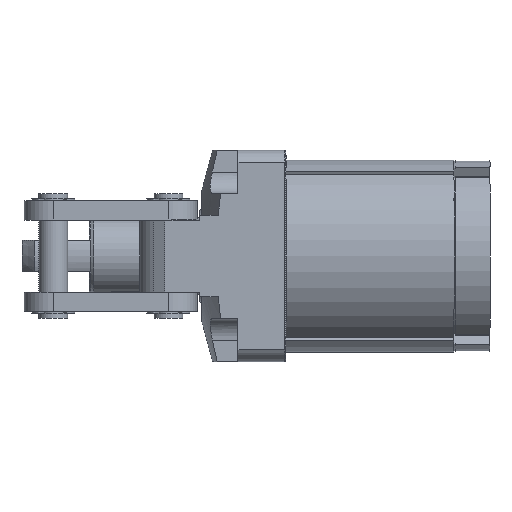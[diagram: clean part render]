
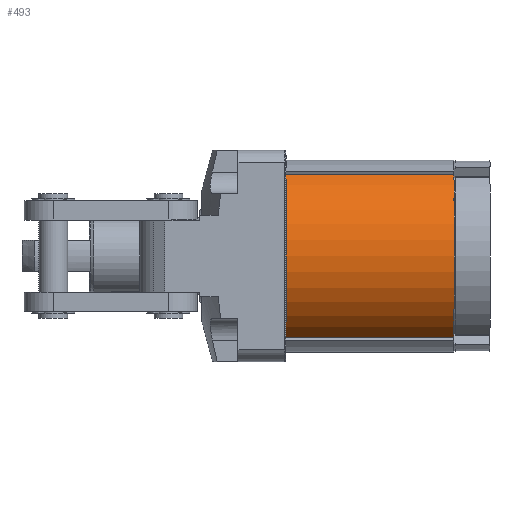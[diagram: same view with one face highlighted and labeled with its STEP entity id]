
A CAD part, left-side view. The second image highlights one B-rep face of the part: STEP entity #493.
In plain terms, the highlighted cylindrical face has radius 40 mm (diameter 80 mm), a partial arc.
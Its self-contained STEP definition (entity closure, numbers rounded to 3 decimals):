
#493 = ADVANCED_FACE( '', ( #1005 ), #1006, .T. );
#1005 = FACE_OUTER_BOUND( '', #1834, .T. );
#1006 = CYLINDRICAL_SURFACE( '', #1835, 40. );
#1834 = EDGE_LOOP( '', ( #3382, #3383, #3384, #3385 ) );
#1835 = AXIS2_PLACEMENT_3D( '', #3386, #3387, #3388 );
#3382 = ORIENTED_EDGE( '', *, *, #5725, .F. );
#3383 = ORIENTED_EDGE( '', *, *, #5703, .F. );
#3384 = ORIENTED_EDGE( '', *, *, #5726, .T. );
#3385 = ORIENTED_EDGE( '', *, *, #5585, .T. );
#3386 = CARTESIAN_POINT( '', ( 0., -70., 0. ) );
#3387 = DIRECTION( '', ( 0., -1., 0. ) );
#3388 = DIRECTION( '', ( 1., 0., 0. ) );
#5585 = EDGE_CURVE( '', #6695, #6693, #6696, .T. );
#5703 = EDGE_CURVE( '', #6901, #6903, #6904, .T. );
#5725 = EDGE_CURVE( '', #6903, #6693, #6942, .T. );
#5726 = EDGE_CURVE( '', #6901, #6695, #6943, .T. );
#6693 = VERTEX_POINT( '', #8866 );
#6695 = VERTEX_POINT( '', #8869 );
#6696 = CIRCLE( '', #8870, 40. );
#6901 = VERTEX_POINT( '', #9151 );
#6903 = VERTEX_POINT( '', #9154 );
#6904 = CIRCLE( '', #9155, 40. );
#6942 = LINE( '', #9209, #9210 );
#6943 = LINE( '', #9211, #9212 );
#8866 = CARTESIAN_POINT( '', ( -21.37, 0., -33.813 ) );
#8869 = CARTESIAN_POINT( '', ( -21.37, 0., 33.813 ) );
#8870 = AXIS2_PLACEMENT_3D( '', #10754, #10755, #10756 );
#9151 = CARTESIAN_POINT( '', ( -21.37, -70., 33.813 ) );
#9154 = CARTESIAN_POINT( '', ( -21.37, -70., -33.813 ) );
#9155 = AXIS2_PLACEMENT_3D( '', #10954, #10955, #10956 );
#9209 = CARTESIAN_POINT( '', ( -21.37, -70., -33.813 ) );
#9210 = VECTOR( '', #10988, 1000. );
#9211 = CARTESIAN_POINT( '', ( -21.37, -133.041, 33.813 ) );
#9212 = VECTOR( '', #10989, 1000. );
#10754 = CARTESIAN_POINT( '', ( 0., 0., 0. ) );
#10755 = DIRECTION( '', ( 0., -1., 0. ) );
#10756 = DIRECTION( '', ( 0., 0., -1. ) );
#10954 = CARTESIAN_POINT( '', ( 0., -70., 0. ) );
#10955 = DIRECTION( '', ( 0., -1., 0. ) );
#10956 = DIRECTION( '', ( 0., 0., -1. ) );
#10988 = DIRECTION( '', ( 0., 1., 0. ) );
#10989 = DIRECTION( '', ( 0., 1., 0. ) );
